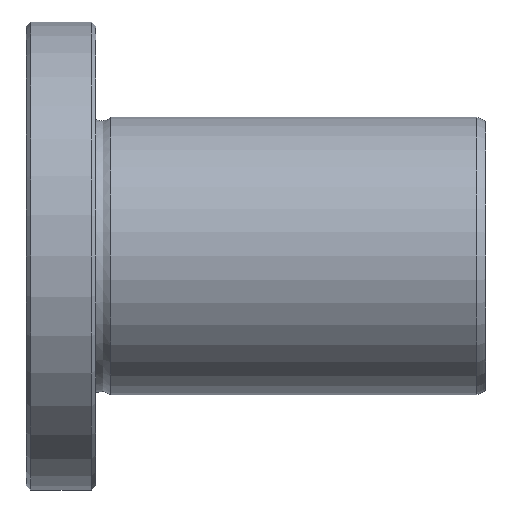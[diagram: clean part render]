
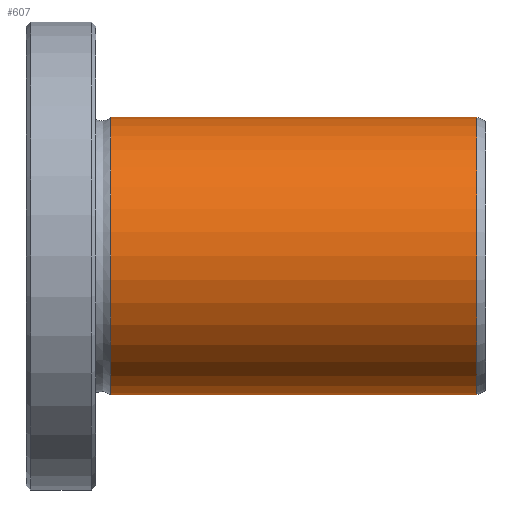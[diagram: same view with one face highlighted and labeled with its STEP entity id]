
A CAD part, front view. The second image highlights one B-rep face of the part: STEP entity #607.
In plain terms, the highlighted cylindrical face has radius 16 mm (diameter 32 mm), a full revolution.
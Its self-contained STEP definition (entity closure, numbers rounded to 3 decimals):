
#573=CARTESIAN_POINT('',(51.999,0.0,16.));
#574=VERTEX_POINT('',#573);
#575=CARTESIAN_POINT('',(51.999,0.0,0.0));
#576=DIRECTION('',(-1.0,0.0,0.0));
#577=DIRECTION('',(0.0,0.0,1.0));
#578=AXIS2_PLACEMENT_3D('',#575,#576,#577);
#579=CIRCLE('',#578,16.);
#580=EDGE_CURVE('',#574,#574,#579,.T.);
#588=CARTESIAN_POINT('',(30.859,0.0,0.0));
#589=DIRECTION('',(-1.0,0.0,0.0));
#590=DIRECTION('',(0.0,0.0,1.0));
#591=AXIS2_PLACEMENT_3D('',#588,#589,#590);
#592=CYLINDRICAL_SURFACE('',#591,16.);
#593=CARTESIAN_POINT('',(9.72,0.0,16.0));
#594=VERTEX_POINT('',#593);
#595=CARTESIAN_POINT('',(9.72,0.0,0.0));
#596=DIRECTION('',(-1.0,0.0,0.0));
#597=DIRECTION('',(0.0,0.0,1.0));
#598=AXIS2_PLACEMENT_3D('',#595,#596,#597);
#599=CIRCLE('',#598,16.0);
#600=EDGE_CURVE('',#594,#594,#599,.T.);
#601=ORIENTED_EDGE('',*,*,#600,.F.);
#602=EDGE_LOOP('',(#601));
#603=FACE_OUTER_BOUND('',#602,.T.);
#604=ORIENTED_EDGE('',*,*,#580,.T.);
#605=EDGE_LOOP('',(#604));
#606=FACE_BOUND('',#605,.T.);
#607=ADVANCED_FACE('',(#603,#606),#592,.T.);
